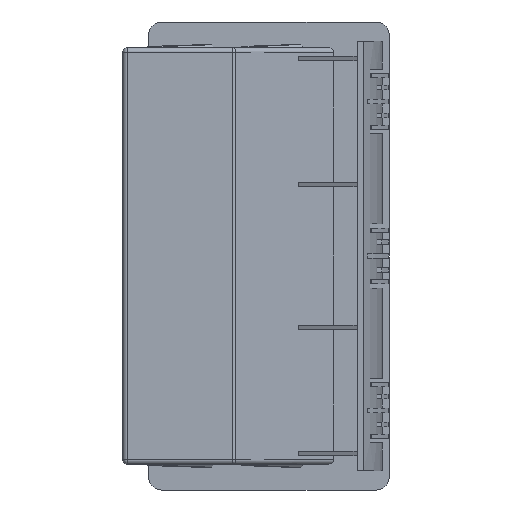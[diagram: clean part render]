
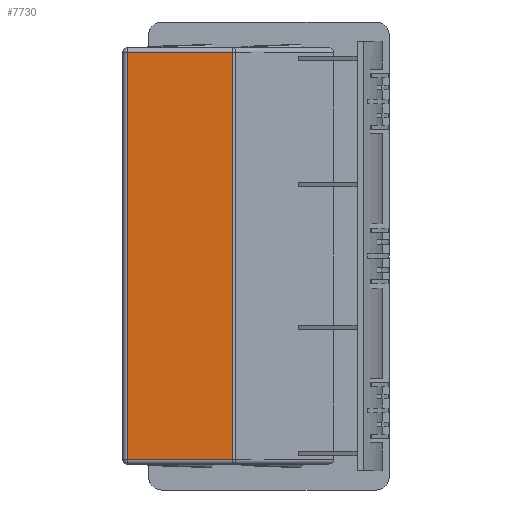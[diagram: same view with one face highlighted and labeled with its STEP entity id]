
A CAD part, front view. The second image highlights one B-rep face of the part: STEP entity #7730.
In plain terms, the highlighted planar face has unit normal (0, -1, 0).
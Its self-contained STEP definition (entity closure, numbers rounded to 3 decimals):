
#286 = CARTESIAN_POINT ( 'NONE',  ( -33., -27., -47.5 ) ) ;
#499 = ORIENTED_EDGE ( 'NONE', *, *, #3662, .T. ) ;
#529 = VERTEX_POINT ( 'NONE', #4582 ) ;
#750 = DIRECTION ( 'NONE',  ( 0., 0., -1. ) ) ;
#821 = CARTESIAN_POINT ( 'NONE',  ( -8.443, -27., -48.5 ) ) ;
#882 = VERTEX_POINT ( 'NONE', #286 ) ;
#1019 = ORIENTED_EDGE ( 'NONE', *, *, #2187, .T. ) ;
#1058 = ORIENTED_EDGE ( 'NONE', *, *, #5042, .T. ) ;
#1388 = LINE ( 'NONE', #821, #7113 ) ;
#1830 = DIRECTION ( 'NONE',  ( -1., 0., 0. ) ) ;
#1957 = LINE ( 'NONE', #6163, #6992 ) ;
#1964 = DIRECTION ( 'NONE',  ( 0., 0., 1. ) ) ;
#2120 = CARTESIAN_POINT ( 'NONE',  ( -33., -27., -48.5 ) ) ;
#2187 = EDGE_CURVE ( 'NONE', #4046, #4896, #1957, .T. ) ;
#2495 = DIRECTION ( 'NONE',  ( 1., 0., 0. ) ) ;
#2635 = ORIENTED_EDGE ( 'NONE', *, *, #4685, .T. ) ;
#2730 = LINE ( 'NONE', #2120, #4634 ) ;
#2959 = FACE_OUTER_BOUND ( 'NONE', #6802, .T. ) ;
#3576 = CARTESIAN_POINT ( 'NONE',  ( -8., -27., -47.5 ) ) ;
#3662 = EDGE_CURVE ( 'NONE', #529, #4046, #1388, .T. ) ;
#4046 = VERTEX_POINT ( 'NONE', #7564 ) ;
#4582 = CARTESIAN_POINT ( 'NONE',  ( -8.443, -27., -47.5 ) ) ;
#4634 = VECTOR ( 'NONE', #750, 1000. ) ;
#4685 = EDGE_CURVE ( 'NONE', #882, #529, #5965, .T. ) ;
#4894 = PLANE ( 'NONE',  #7523 ) ;
#4896 = VERTEX_POINT ( 'NONE', #6258 ) ;
#5042 = EDGE_CURVE ( 'NONE', #4896, #882, #2730, .T. ) ;
#5274 = VECTOR ( 'NONE', #2495, 1000. ) ;
#5383 = DIRECTION ( 'NONE',  ( 0., 0., 1. ) ) ;
#5965 = LINE ( 'NONE', #3576, #5274 ) ;
#6029 = DIRECTION ( 'NONE',  ( 0., 1., 0. ) ) ;
#6163 = CARTESIAN_POINT ( 'NONE',  ( -34., -27., 47.5 ) ) ;
#6258 = CARTESIAN_POINT ( 'NONE',  ( -33., -27., 47.5 ) ) ;
#6802 = EDGE_LOOP ( 'NONE', ( #2635, #499, #1019, #1058 ) ) ;
#6992 = VECTOR ( 'NONE', #1830, 1000. ) ;
#7113 = VECTOR ( 'NONE', #1964, 1000. ) ;
#7523 = AXIS2_PLACEMENT_3D ( 'NONE', #7841, #6029, #5383 ) ;
#7564 = CARTESIAN_POINT ( 'NONE',  ( -8.443, -27., 47.5 ) ) ;
#7730 = ADVANCED_FACE ( 'NONE', ( #2959 ), #4894, .F. ) ;
#7841 = CARTESIAN_POINT ( 'NONE',  ( -8., -27., -48.5 ) ) ;
